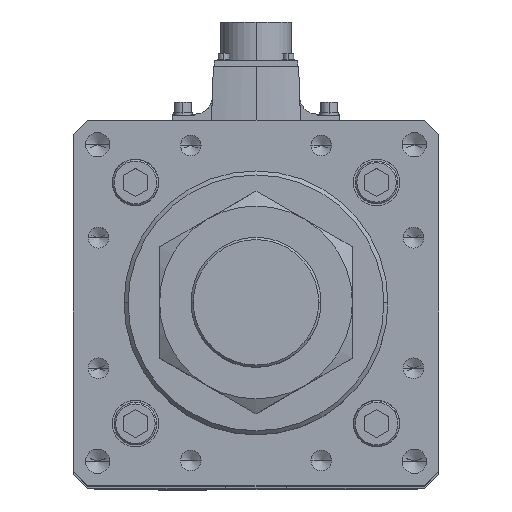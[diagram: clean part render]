
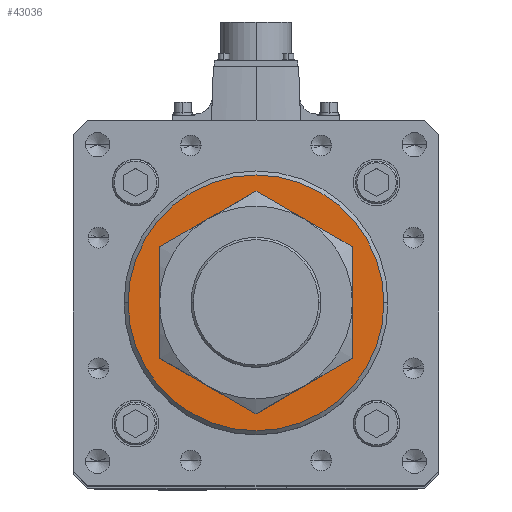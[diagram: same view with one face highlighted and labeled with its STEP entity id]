
A CAD part, top view. The second image highlights one B-rep face of the part: STEP entity #43036.
In plain terms, the highlighted planar face has unit normal (0, 0, 1).
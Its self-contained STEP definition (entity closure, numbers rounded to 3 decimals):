
#1845 = CARTESIAN_POINT ( 'NONE',  ( 0., 0., 812. ) ) ;
#3375 = CARTESIAN_POINT ( 'NONE',  ( 0., 0., 812. ) ) ;
#3601 = DIRECTION ( 'NONE',  ( 0., 0., -1. ) ) ;
#5093 = VERTEX_POINT ( 'NONE', #54443 ) ;
#6319 = PLANE ( 'NONE',  #7885 ) ;
#6786 = CARTESIAN_POINT ( 'NONE',  ( 0., 0., 812. ) ) ;
#7179 = CIRCLE ( 'NONE', #50336, 40.5 ) ;
#7885 = AXIS2_PLACEMENT_3D ( 'NONE', #1845, #43537, #14684 ) ;
#9427 = CIRCLE ( 'NONE', #40400, 40.5 ) ;
#10261 = VERTEX_POINT ( 'NONE', #51884 ) ;
#12683 = FACE_BOUND ( 'NONE', #27623, .T. ) ;
#12690 = VERTEX_POINT ( 'NONE', #37439 ) ;
#14684 = DIRECTION ( 'NONE',  ( 1., 0., 0. ) ) ;
#14967 = AXIS2_PLACEMENT_3D ( 'NONE', #3375, #33928, #37842 ) ;
#16104 = DIRECTION ( 'NONE',  ( 0., 0., -1. ) ) ;
#17993 = EDGE_CURVE ( 'NONE', #55285, #10261, #9427, .T. ) ;
#18429 = ORIENTED_EDGE ( 'NONE', *, *, #39058, .T. ) ;
#19687 = EDGE_LOOP ( 'NONE', ( #54770, #47270 ) ) ;
#27623 = EDGE_LOOP ( 'NONE', ( #18429, #34532 ) ) ;
#32986 = DIRECTION ( 'NONE',  ( 0., 0., 1. ) ) ;
#33928 = DIRECTION ( 'NONE',  ( 0., 0., 1. ) ) ;
#34532 = ORIENTED_EDGE ( 'NONE', *, *, #17993, .T. ) ;
#35407 = CIRCLE ( 'NONE', #41098, 63. ) ;
#37439 = CARTESIAN_POINT ( 'NONE',  ( 63., 0., 812. ) ) ;
#37842 = DIRECTION ( 'NONE',  ( 1., 0., 0. ) ) ;
#39058 = EDGE_CURVE ( 'NONE', #10261, #55285, #7179, .T. ) ;
#40400 = AXIS2_PLACEMENT_3D ( 'NONE', #41638, #16104, #54526 ) ;
#41098 = AXIS2_PLACEMENT_3D ( 'NONE', #50317, #32986, #50516 ) ;
#41638 = CARTESIAN_POINT ( 'NONE',  ( 0., 0., 812. ) ) ;
#41698 = CARTESIAN_POINT ( 'NONE',  ( -40.5, 0., 812. ) ) ;
#42326 = DIRECTION ( 'NONE',  ( 1., 0., 0. ) ) ;
#42800 = EDGE_CURVE ( 'NONE', #5093, #12690, #35407, .T. ) ;
#43036 = ADVANCED_FACE ( 'NONE', ( #12683, #52045 ), #6319, .T. ) ;
#43537 = DIRECTION ( 'NONE',  ( 0., 0., 1. ) ) ;
#47270 = ORIENTED_EDGE ( 'NONE', *, *, #50916, .T. ) ;
#50317 = CARTESIAN_POINT ( 'NONE',  ( 0., 0., 812. ) ) ;
#50336 = AXIS2_PLACEMENT_3D ( 'NONE', #6786, #3601, #42326 ) ;
#50516 = DIRECTION ( 'NONE',  ( 1., 0., 0. ) ) ;
#50916 = EDGE_CURVE ( 'NONE', #12690, #5093, #52115, .T. ) ;
#51884 = CARTESIAN_POINT ( 'NONE',  ( 40.5, 0., 812. ) ) ;
#52045 = FACE_OUTER_BOUND ( 'NONE', #19687, .T. ) ;
#52115 = CIRCLE ( 'NONE', #14967, 63. ) ;
#54443 = CARTESIAN_POINT ( 'NONE',  ( -63., 0., 812. ) ) ;
#54526 = DIRECTION ( 'NONE',  ( 1., 0., 0. ) ) ;
#54770 = ORIENTED_EDGE ( 'NONE', *, *, #42800, .T. ) ;
#55285 = VERTEX_POINT ( 'NONE', #41698 ) ;
